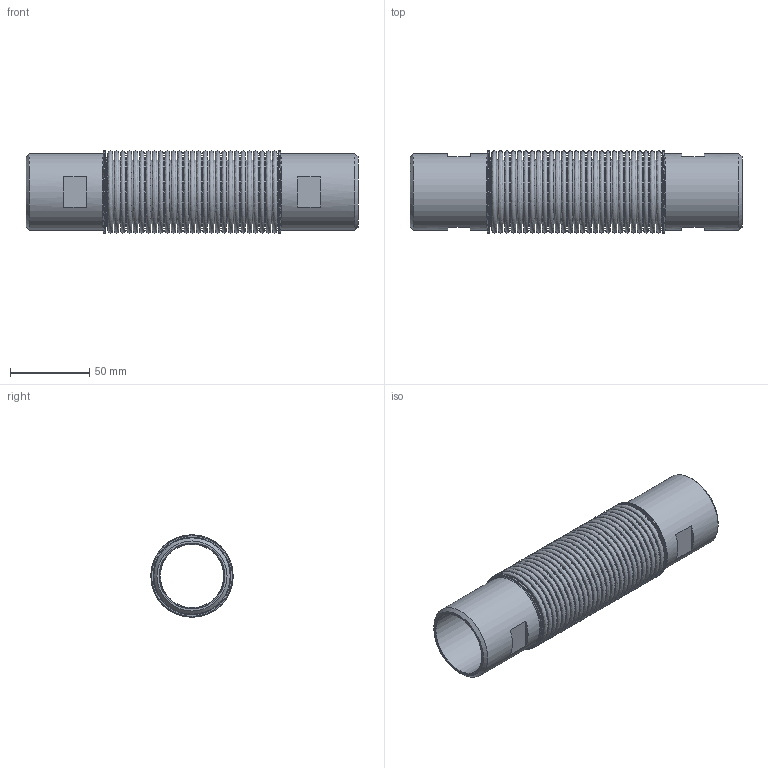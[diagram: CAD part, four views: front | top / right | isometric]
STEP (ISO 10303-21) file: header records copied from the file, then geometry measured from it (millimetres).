
FILE_DESCRIPTION (( 'STEP AP214' ), '1' );
FILE_NAME ('97069999.STEP', '2024-09-06T14:01:50', ( '' ), ( '' ), 'SwSTEP 2.0', 'SolidWorks 2021', '' );
FILE_SCHEMA (( 'AUTOMOTIVE_DESIGN' ));
Length unit declared in the file: millimetre
Products named in the file (1): 97069999
Bounding box: 210 x 52 x 52 mm (x, y, z)
Volume: 60334.8 mm3; surface area: 151090.2 mm2
Topology: 3 solids, 3 shells, 260 faces, 595 edges, 349 vertices
Faces by surface type: bspline 116, cone 112, plane 24, cylinder 8
Full cylindrical faces by diameter (mm): 41.2 x2, 43 x1, 43.4 x1, 48.3 x2, 52 x2
Entity records: 12212 total; most frequent: CARTESIAN_POINT 5261, DIRECTION 798, ORIENTED_EDGE 564, EDGE_LOOP 512, AXIS2_PLACEMENT_3D 391, FACE_OUTER_BOUND 384, EDGE_CURVE 282, VERTEX_POINT 274
